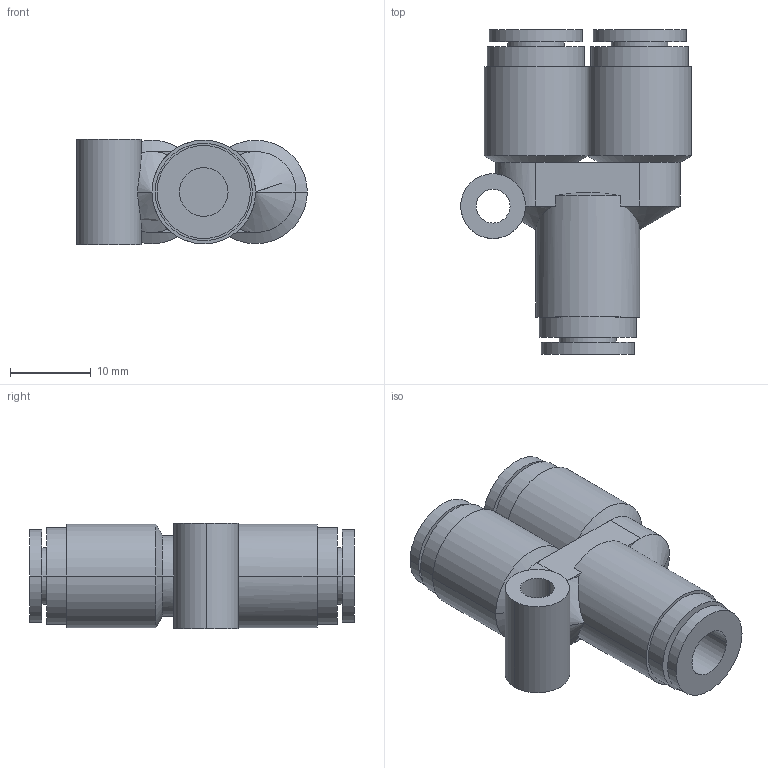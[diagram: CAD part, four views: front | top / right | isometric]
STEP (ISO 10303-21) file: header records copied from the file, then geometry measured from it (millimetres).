
FILE_DESCRIPTION( ( '' ), '1' );
FILE_NAME( 'G:/SMC狟婥/KPU06-00.stp', '2023-03-07T02:14:23', ( '' ), ( '' ), ' ', ' ', ' ' );
FILE_SCHEMA( ( 'CONFIG_CONTROL_DESIGN' ) );
Length unit declared in the file: millimetre
Products named in the file (1): 1
Bounding box: 28.5 x 40.1 x 13 mm (x, y, z)
Volume: 6170.9 mm3; surface area: 4747.6 mm2
Topology: 1 solids, 1 shells, 72 faces, 159 edges, 97 vertices
Faces by surface type: cylinder 38, plane 24, cone 10
Entity records: 2183 total; most frequent: CARTESIAN_POINT 507, DIRECTION 379, ORIENTED_EDGE 310, AXIS2_PLACEMENT_3D 161, EDGE_CURVE 155, VERTEX_POINT 97, CIRCLE 88, EDGE_LOOP 86
